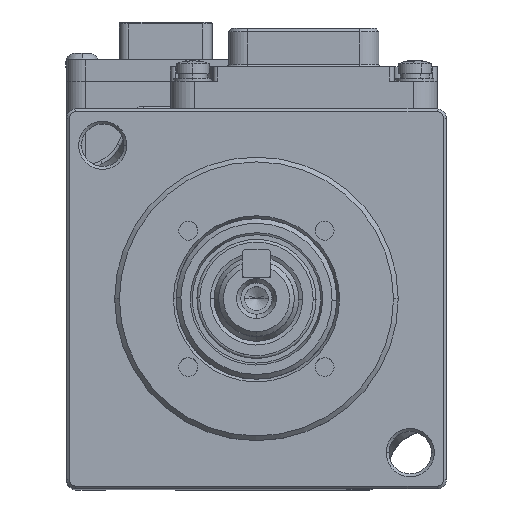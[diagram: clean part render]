
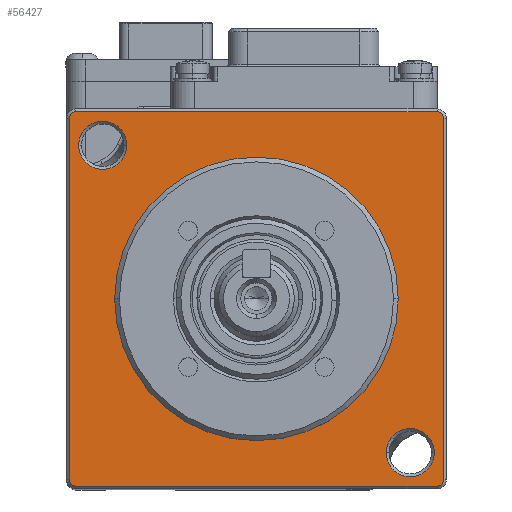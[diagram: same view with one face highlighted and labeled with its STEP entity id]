
A CAD part, top view. The second image highlights one B-rep face of the part: STEP entity #56427.
In plain terms, the highlighted planar face has unit normal (0, 0, 1).
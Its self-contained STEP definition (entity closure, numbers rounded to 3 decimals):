
#115 = CARTESIAN_POINT ( 'NONE',  ( 19.1, -19.8, 1.8 ) ) ;
#877 = DIRECTION ( 'NONE',  ( 0., 0., -1. ) ) ;
#2345 = CARTESIAN_POINT ( 'NONE',  ( 19.1, 19.8, 1.8 ) ) ;
#2810 = FACE_OUTER_BOUND ( 'NONE', #41634, .T. ) ;
#3164 = PLANE ( 'NONE',  #57343 ) ;
#3379 = DIRECTION ( 'NONE',  ( 0., 0., 1. ) ) ;
#3859 = AXIS2_PLACEMENT_3D ( 'NONE', #19407, #14083, #8778 ) ;
#4127 = ORIENTED_EDGE ( 'NONE', *, *, #38281, .F. ) ;
#6422 = CARTESIAN_POINT ( 'NONE',  ( -19.1, 19.8, 1.8 ) ) ;
#6550 = AXIS2_PLACEMENT_3D ( 'NONE', #30582, #57046, #19307 ) ;
#7023 = CIRCLE ( 'NONE', #69029, 0.7 ) ;
#7075 = VECTOR ( 'NONE', #22208, 1000. ) ;
#7411 = DIRECTION ( 'NONE',  ( 0., 0., 1. ) ) ;
#7511 = ORIENTED_EDGE ( 'NONE', *, *, #28594, .F. ) ;
#7536 = EDGE_CURVE ( 'NONE', #11775, #12528, #7023, .T. ) ;
#8006 = EDGE_CURVE ( 'NONE', #40904, #63385, #42325, .T. ) ;
#8778 = DIRECTION ( 'NONE',  ( 1., 0., 0. ) ) ;
#9720 = VERTEX_POINT ( 'NONE', #10305 ) ;
#10305 = CARTESIAN_POINT ( 'NONE',  ( -19.1, -19.8, 1.8 ) ) ;
#10689 = DIRECTION ( 'NONE',  ( 1., 0., 0. ) ) ;
#10775 = CARTESIAN_POINT ( 'NONE',  ( -16.263, 16.263, 1.8 ) ) ;
#11763 = CIRCLE ( 'NONE', #3859, 2.55 ) ;
#11775 = VERTEX_POINT ( 'NONE', #2345 ) ;
#12528 = VERTEX_POINT ( 'NONE', #17390 ) ;
#13120 = DIRECTION ( 'NONE',  ( 0., 0., 1. ) ) ;
#14083 = DIRECTION ( 'NONE',  ( 0., 0., 1. ) ) ;
#14636 = EDGE_CURVE ( 'NONE', #68171, #24176, #40689, .T. ) ;
#14923 = ORIENTED_EDGE ( 'NONE', *, *, #42294, .F. ) ;
#15795 = VERTEX_POINT ( 'NONE', #49735 ) ;
#16089 = EDGE_CURVE ( 'NONE', #12528, #55108, #47899, .T. ) ;
#16549 = CARTESIAN_POINT ( 'NONE',  ( -19.8, 20., 1.8 ) ) ;
#16692 = CIRCLE ( 'NONE', #6550, 0.7 ) ;
#16838 = DIRECTION ( 'NONE',  ( 0., 0., 1. ) ) ;
#17390 = CARTESIAN_POINT ( 'NONE',  ( 19.8, 19.1, 1.8 ) ) ;
#19167 = CARTESIAN_POINT ( 'NONE',  ( -19.1, 19.1, 1.8 ) ) ;
#19267 = AXIS2_PLACEMENT_3D ( 'NONE', #53521, #16838, #27438 ) ;
#19295 = DIRECTION ( 'NONE',  ( 1., 0., 0. ) ) ;
#19307 = DIRECTION ( 'NONE',  ( 1., 0., 0. ) ) ;
#19407 = CARTESIAN_POINT ( 'NONE',  ( 16.263, -16.263, 1.8 ) ) ;
#21481 = ORIENTED_EDGE ( 'NONE', *, *, #7536, .F. ) ;
#21809 = CARTESIAN_POINT ( 'NONE',  ( 19.8, 20., 1.8 ) ) ;
#22009 = CIRCLE ( 'NONE', #40030, 2.55 ) ;
#22047 = EDGE_LOOP ( 'NONE', ( #14923, #34437 ) ) ;
#22085 = CARTESIAN_POINT ( 'NONE',  ( -19.1, -19.1, 1.8 ) ) ;
#22208 = DIRECTION ( 'NONE',  ( 0., 1., 0. ) ) ;
#22638 = CIRCLE ( 'NONE', #19267, 15. ) ;
#23255 = AXIS2_PLACEMENT_3D ( 'NONE', #47479, #3379, #19295 ) ;
#23374 = EDGE_CURVE ( 'NONE', #55108, #43275, #16692, .T. ) ;
#24176 = VERTEX_POINT ( 'NONE', #24434 ) ;
#24378 = FACE_BOUND ( 'NONE', #25034, .T. ) ;
#24434 = CARTESIAN_POINT ( 'NONE',  ( 15., 0., 1.8 ) ) ;
#24637 = ORIENTED_EDGE ( 'NONE', *, *, #8006, .F. ) ;
#24715 = CARTESIAN_POINT ( 'NONE',  ( 18.813, -16.263, 1.8 ) ) ;
#25034 = EDGE_LOOP ( 'NONE', ( #55027, #42115 ) ) ;
#25564 = AXIS2_PLACEMENT_3D ( 'NONE', #10775, #32687, #33032 ) ;
#27113 = DIRECTION ( 'NONE',  ( 0., -1., 0. ) ) ;
#27247 = ORIENTED_EDGE ( 'NONE', *, *, #61084, .F. ) ;
#27438 = DIRECTION ( 'NONE',  ( 1., 0., 0. ) ) ;
#28019 = ORIENTED_EDGE ( 'NONE', *, *, #29856, .F. ) ;
#28026 = EDGE_CURVE ( 'NONE', #61017, #15795, #22009, .T. ) ;
#28032 = CARTESIAN_POINT ( 'NONE',  ( 0., -19.8, 1.8 ) ) ;
#28594 = EDGE_CURVE ( 'NONE', #9720, #40904, #28867, .T. ) ;
#28867 = CIRCLE ( 'NONE', #51363, 0.7 ) ;
#29054 = DIRECTION ( 'NONE',  ( 0., 0., -1. ) ) ;
#29413 = VERTEX_POINT ( 'NONE', #24715 ) ;
#29856 = EDGE_CURVE ( 'NONE', #53357, #11775, #64704, .T. ) ;
#30012 = FACE_BOUND ( 'NONE', #66962, .T. ) ;
#30582 = CARTESIAN_POINT ( 'NONE',  ( 19.1, -19.1, 1.8 ) ) ;
#31154 = CIRCLE ( 'NONE', #23255, 2.55 ) ;
#31726 = CARTESIAN_POINT ( 'NONE',  ( -19.8, -19.1, 1.8 ) ) ;
#32687 = DIRECTION ( 'NONE',  ( 0., 0., 1. ) ) ;
#32894 = ORIENTED_EDGE ( 'NONE', *, *, #14636, .F. ) ;
#33032 = DIRECTION ( 'NONE',  ( 1., 0., 0. ) ) ;
#33616 = EDGE_CURVE ( 'NONE', #63385, #53357, #44994, .T. ) ;
#34437 = ORIENTED_EDGE ( 'NONE', *, *, #39818, .F. ) ;
#35304 = DIRECTION ( 'NONE',  ( 1., 0., 0. ) ) ;
#36281 = DIRECTION ( 'NONE',  ( 1., 0., 0. ) ) ;
#37565 = CARTESIAN_POINT ( 'NONE',  ( -18.813, 16.263, 1.8 ) ) ;
#38281 = EDGE_CURVE ( 'NONE', #24176, #68171, #22638, .T. ) ;
#39059 = CIRCLE ( 'NONE', #25564, 2.55 ) ;
#39722 = CARTESIAN_POINT ( 'NONE',  ( 19.1, 19.1, 1.8 ) ) ;
#39818 = EDGE_CURVE ( 'NONE', #42873, #29413, #31154, .T. ) ;
#40004 = ORIENTED_EDGE ( 'NONE', *, *, #33616, .F. ) ;
#40030 = AXIS2_PLACEMENT_3D ( 'NONE', #45232, #13120, #67139 ) ;
#40689 = CIRCLE ( 'NONE', #62106, 15. ) ;
#40904 = VERTEX_POINT ( 'NONE', #31726 ) ;
#41634 = EDGE_LOOP ( 'NONE', ( #21481, #28019, #40004, #24637, #7511, #27247, #41742, #69052 ) ) ;
#41742 = ORIENTED_EDGE ( 'NONE', *, *, #23374, .F. ) ;
#42115 = ORIENTED_EDGE ( 'NONE', *, *, #28026, .F. ) ;
#42294 = EDGE_CURVE ( 'NONE', #29413, #42873, #11763, .T. ) ;
#42325 = LINE ( 'NONE', #16549, #7075 ) ;
#42873 = VERTEX_POINT ( 'NONE', #49940 ) ;
#43275 = VERTEX_POINT ( 'NONE', #115 ) ;
#44994 = CIRCLE ( 'NONE', #46090, 0.7 ) ;
#45232 = CARTESIAN_POINT ( 'NONE',  ( -16.263, 16.263, 1.8 ) ) ;
#45504 = CARTESIAN_POINT ( 'NONE',  ( 19.8, -19.1, 1.8 ) ) ;
#45870 = FACE_BOUND ( 'NONE', #22047, .T. ) ;
#46090 = AXIS2_PLACEMENT_3D ( 'NONE', #19167, #29054, #50908 ) ;
#46396 = DIRECTION ( 'NONE',  ( 1., 0., 0. ) ) ;
#47479 = CARTESIAN_POINT ( 'NONE',  ( 16.263, -16.263, 1.8 ) ) ;
#47899 = LINE ( 'NONE', #21809, #60489 ) ;
#49735 = CARTESIAN_POINT ( 'NONE',  ( -13.713, 16.263, 1.8 ) ) ;
#49940 = CARTESIAN_POINT ( 'NONE',  ( 13.713, -16.263, 1.8 ) ) ;
#50071 = CARTESIAN_POINT ( 'NONE',  ( -15., 0., 1.8 ) ) ;
#50908 = DIRECTION ( 'NONE',  ( 1., 0., 0. ) ) ;
#51363 = AXIS2_PLACEMENT_3D ( 'NONE', #22085, #877, #54516 ) ;
#53176 = VECTOR ( 'NONE', #65446, 1000. ) ;
#53357 = VERTEX_POINT ( 'NONE', #6422 ) ;
#53399 = CARTESIAN_POINT ( 'NONE',  ( 0., 19.8, 1.8 ) ) ;
#53521 = CARTESIAN_POINT ( 'NONE',  ( 0., 0., 1.8 ) ) ;
#54516 = DIRECTION ( 'NONE',  ( 1., 0., 0. ) ) ;
#55027 = ORIENTED_EDGE ( 'NONE', *, *, #66612, .F. ) ;
#55108 = VERTEX_POINT ( 'NONE', #45504 ) ;
#56427 = ADVANCED_FACE ( 'NONE', ( #2810, #30012, #24378, #45870 ), #3164, .T. ) ;
#57046 = DIRECTION ( 'NONE',  ( 0., 0., -1. ) ) ;
#57343 = AXIS2_PLACEMENT_3D ( 'NONE', #67432, #7411, #35304 ) ;
#58148 = CARTESIAN_POINT ( 'NONE',  ( 0., 0., 1.8 ) ) ;
#60141 = LINE ( 'NONE', #28032, #53176 ) ;
#60489 = VECTOR ( 'NONE', #27113, 1000. ) ;
#61017 = VERTEX_POINT ( 'NONE', #37565 ) ;
#61084 = EDGE_CURVE ( 'NONE', #43275, #9720, #60141, .T. ) ;
#62056 = DIRECTION ( 'NONE',  ( 0., 0., 1. ) ) ;
#62106 = AXIS2_PLACEMENT_3D ( 'NONE', #58148, #62056, #36281 ) ;
#62592 = CARTESIAN_POINT ( 'NONE',  ( -19.8, 19.1, 1.8 ) ) ;
#63385 = VERTEX_POINT ( 'NONE', #62592 ) ;
#63488 = VECTOR ( 'NONE', #10689, 1000. ) ;
#64704 = LINE ( 'NONE', #53399, #63488 ) ;
#65446 = DIRECTION ( 'NONE',  ( -1., 0., 0. ) ) ;
#66612 = EDGE_CURVE ( 'NONE', #15795, #61017, #39059, .T. ) ;
#66962 = EDGE_LOOP ( 'NONE', ( #4127, #32894 ) ) ;
#67139 = DIRECTION ( 'NONE',  ( 1., 0., 0. ) ) ;
#67432 = CARTESIAN_POINT ( 'NONE',  ( 0., 15., 1.8 ) ) ;
#67612 = DIRECTION ( 'NONE',  ( 0., 0., -1. ) ) ;
#68171 = VERTEX_POINT ( 'NONE', #50071 ) ;
#69029 = AXIS2_PLACEMENT_3D ( 'NONE', #39722, #67612, #46396 ) ;
#69052 = ORIENTED_EDGE ( 'NONE', *, *, #16089, .F. ) ;
